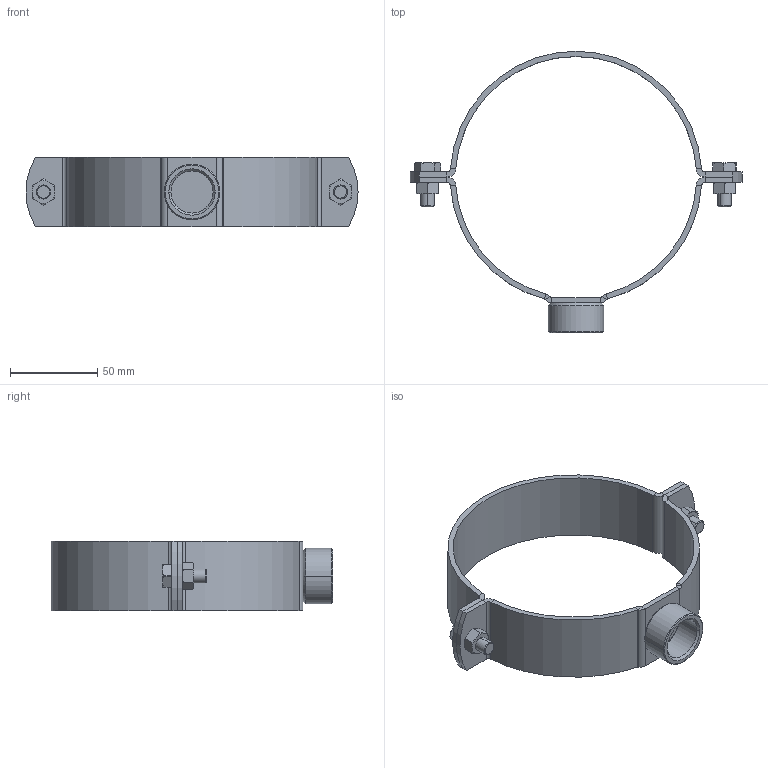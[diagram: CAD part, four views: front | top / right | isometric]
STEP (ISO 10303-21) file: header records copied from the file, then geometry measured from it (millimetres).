
FILE_DESCRIPTION (( 'STEP AP203' ), '1' );
FILE_NAME ('51.838.STEP', '2019-11-21T16:16:22', ( '' ), ( '' ), 'SwSTEP 2.0', 'SolidWorks 2019', '' );
FILE_SCHEMA (( 'CONFIG_CONTROL_DESIGN' ));
Length unit declared in the file: millimetre
Products named in the file (7): 1000003486; 51.838; 1000003377_09 - Gr. 139-142 - H-17110.009; 1000003263_E-10254.002-Inox V4A (1.4404); 1000003381_09 - Gr. 139-142 - H-17111.609; 1000003366_09 - Gr. 139-142 - H-17109.009; 1000003484
Assembly tree (8 placements, depth 3):
  51.838
    1000003381_09 - Gr. 139-142 - H-17111.609
      1000003377_09 - Gr. 139-142 - H-17110.009
      1000003263_E-10254.002-Inox V4A (1.4404)
    1000003366_09 - Gr. 139-142 - H-17109.009
    1000003484  x2
    1000003486  x2
Bounding box: 190 x 161 x 40 mm (x, y, z)
Volume: 72556.1 mm3; surface area: 52022.9 mm2
Topology: 7 solids, 7 shells, 214 faces, 462 edges, 264 vertices
Faces by surface type: plane 90, cylinder 62, cone 62
Entity records: 4974 total; most frequent: CARTESIAN_POINT 861, DIRECTION 757, ORIENTED_EDGE 650, EDGE_CURVE 325, AXIS2_PLACEMENT_3D 304, VERTEX_POINT 184, EDGE_LOOP 165, FACE_OUTER_BOUND 152
